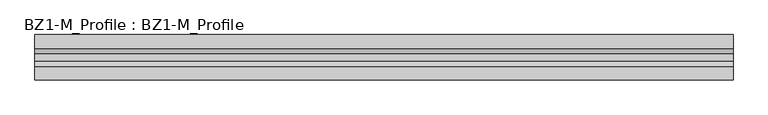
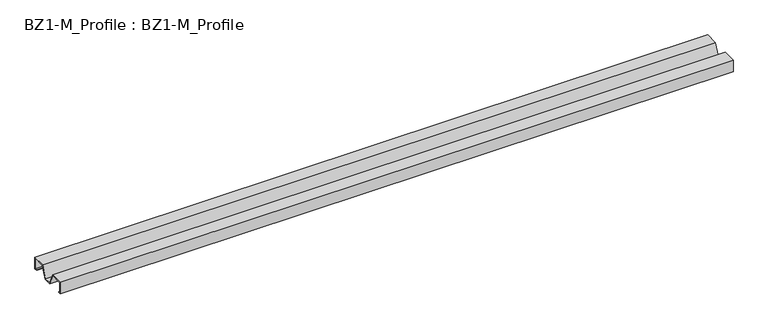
"""IFC4 building model written with IfcOpenShell, lengths in millimetres: beam geometry, BZ1-M_Profile : BZ1-M_Profile."""

from ifc_helpers import new_model, si_unit, frame, origin, place, context, project, spatial, polyline, outline, extrude, source, transform, mapped, element, save


def bz1_m_profile_bz1_m_profile_7d883e4c(model_context):
    return source(origin(), model_context, "Body", "SweptSolid", [
        extrude(outline(polyline([(45.0, 25.0), (45.0, 0.0), (39.0, 0.0), (39.0, 1.0), (44.0, 1.0), (44.0, 24.0), (18.3051526, 24.0), (8.117757, 0.0), (-8.117757, 0.0), (-18.3051526, 24.0), (-44.0, 24.0), (-44.0, 1.0), (-39.0, 1.0), (-39.0, 0.0), (-45.0, 0.0), (-45.0, 25.0), (-17.643267, 25.0), (-7.4558714, 1.0), (7.4558714, 1.0), (17.643267, 25.0), (45.0, 25.0)])), frame((-690.0, 0.0, 0.0), z_axis=(1.0, 0.0, 0.0), x_axis=(0.0, 1.0, 0.0)), (0.0, 0.0, 1.0), 1380.0),
    ])


if __name__ == "__main__":
    model = new_model("IFC4")
    model_context = context("Model", 3, world=origin())
    ifc_project = project(units=[si_unit("LENGTHUNIT", "METRE", prefix="MILLI")], contexts=[model_context])
    site = spatial("IfcSite", under=ifc_project)
    building = spatial("IfcBuilding", under=site)
    placement = place(None, origin())
    bz1_m_profile_bz1_m_profile_shape = bz1_m_profile_bz1_m_profile_7d883e4c(model_context)
    element("IfcBeam", 1, ObjectType="BZ1-M_Profile : BZ1-M_Profile", at=placement, inside=building, context=model_context, shape_type="MappedRepresentation", body=[
        mapped(bz1_m_profile_bz1_m_profile_shape, transform((0.0, 0.0, 0.0), x_axis=(1.0, 0.0, 0.0), y_axis=(0.0, 1.0, 0.0), z_axis=(0.0, 0.0, 1.0))),
    ])
    save(model, "model.ifc")
